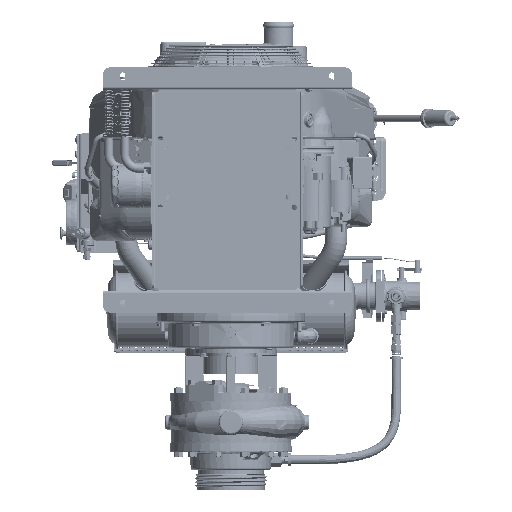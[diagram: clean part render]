
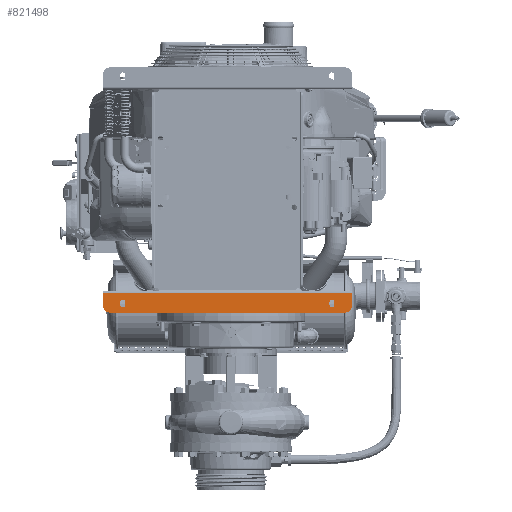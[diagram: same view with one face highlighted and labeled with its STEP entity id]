
A CAD part, front view. The second image highlights one B-rep face of the part: STEP entity #821498.
In plain terms, the highlighted planar face has unit normal (0, -1, 0).
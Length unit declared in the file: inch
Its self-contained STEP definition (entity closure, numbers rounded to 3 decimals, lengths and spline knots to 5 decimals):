
#1076 = CARTESIAN_POINT ( 'NONE',  ( 6.72871, -7.62598, -2.06394 ) ) ;
#19610 = VERTEX_POINT ( 'NONE', #131475 ) ;
#20877 = CARTESIAN_POINT ( 'NONE',  ( -7.36929, -7.62598, -1.69194 ) ) ;
#25032 = DIRECTION ( 'NONE',  ( 0., -1., 0. ) ) ;
#26072 = CARTESIAN_POINT ( 'NONE',  ( 8.26571, -7.62598, -2.08894 ) ) ;
#43702 = EDGE_CURVE ( 'NONE', #572544, #765083, #330552, .T. ) ;
#47526 = AXIS2_PLACEMENT_3D ( 'NONE', #453387, #119486, #536606 ) ;
#50116 = CARTESIAN_POINT ( 'NONE',  ( -0.23429, -7.62598, 5.78606 ) ) ;
#53474 = ORIENTED_EDGE ( 'NONE', *, *, #701477, .T. ) ;
#67813 = CARTESIAN_POINT ( 'NONE',  ( 6.72871, -7.62598, -1.86394 ) ) ;
#76751 = ORIENTED_EDGE ( 'NONE', *, *, #43702, .T. ) ;
#94535 = CARTESIAN_POINT ( 'NONE',  ( 7.76571, -7.62598, -2.08894 ) ) ;
#113439 = VERTEX_POINT ( 'NONE', #20877 ) ;
#114998 = FACE_BOUND ( 'NONE', #626098, .T. ) ;
#116576 = EDGE_CURVE ( 'NONE', #414872, #766826, #346053, .T. ) ;
#117647 = CARTESIAN_POINT ( 'NONE',  ( 6.90071, -7.62598, -1.86394 ) ) ;
#119486 = DIRECTION ( 'NONE',  ( 0., 1., 0. ) ) ;
#121654 = EDGE_CURVE ( 'NONE', #19610, #414872, #314132, .T. ) ;
#131475 = CARTESIAN_POINT ( 'NONE',  ( 7.07271, -7.62598, -2.06394 ) ) ;
#137098 = DIRECTION ( 'NONE',  ( 0., 0., 1. ) ) ;
#160338 = EDGE_CURVE ( 'NONE', #696127, #572544, #914424, .T. ) ;
#169300 = DIRECTION ( 'NONE',  ( 0., 0., 1. ) ) ;
#176683 = VECTOR ( 'NONE', #707128, 39.37008 ) ;
#179449 = DIRECTION ( 'NONE',  ( 0., -1., 0. ) ) ;
#180197 = EDGE_CURVE ( 'NONE', #113439, #356157, #614150, .T. ) ;
#186203 = EDGE_CURVE ( 'NONE', #307806, #780944, #276242, .T. ) ;
#196427 = AXIS2_PLACEMENT_3D ( 'NONE', #702433, #563440, #493934 ) ;
#204569 = EDGE_LOOP ( 'NONE', ( #76751, #370046, #871016, #744568, #351450, #360032 ) ) ;
#207585 = VERTEX_POINT ( 'NONE', #477318 ) ;
#215365 = CIRCLE ( 'NONE', #318553, 0.172 ) ;
#221771 = CARTESIAN_POINT ( 'NONE',  ( -8.73429, -7.62598, 5.78606 ) ) ;
#225100 = ORIENTED_EDGE ( 'NONE', *, *, #232159, .T. ) ;
#232159 = EDGE_CURVE ( 'NONE', #207585, #446292, #603382, .T. ) ;
#233590 = CARTESIAN_POINT ( 'NONE',  ( -7.36929, -7.62598, -1.86394 ) ) ;
#234454 = CIRCLE ( 'NONE', #471209, 0.5 ) ;
#243256 = EDGE_CURVE ( 'NONE', #780944, #19610, #421640, .T. ) ;
#245384 = DIRECTION ( 'NONE',  ( 0., 1., 0. ) ) ;
#251393 = DIRECTION ( 'NONE',  ( 0., 0., 1. ) ) ;
#260492 = VECTOR ( 'NONE', #169300, 39.37008 ) ;
#260943 = DIRECTION ( 'NONE',  ( 1., 0., 0. ) ) ;
#264413 = EDGE_CURVE ( 'NONE', #765083, #853894, #234454, .T. ) ;
#266108 = EDGE_LOOP ( 'NONE', ( #349366, #843512, #817209, #834677, #577015 ) ) ;
#276242 = CIRCLE ( 'NONE', #557262, 0.172 ) ;
#280085 = CARTESIAN_POINT ( 'NONE',  ( 6.72871, -7.62598, -1.86394 ) ) ;
#306224 = DIRECTION ( 'NONE',  ( 0., 0., -1. ) ) ;
#307806 = VERTEX_POINT ( 'NONE', #732158 ) ;
#314132 = CIRCLE ( 'NONE', #47526, 0.172 ) ;
#318553 = AXIS2_PLACEMENT_3D ( 'NONE', #233590, #516125, #872801 ) ;
#330552 = LINE ( 'NONE', #895700, #875661 ) ;
#340540 = EDGE_CURVE ( 'NONE', #766826, #307806, #577754, .T. ) ;
#346053 = LINE ( 'NONE', #67813, #176683 ) ;
#349366 = ORIENTED_EDGE ( 'NONE', *, *, #116576, .T. ) ;
#351450 = ORIENTED_EDGE ( 'NONE', *, *, #609496, .T. ) ;
#356157 = VERTEX_POINT ( 'NONE', #497938 ) ;
#360032 = ORIENTED_EDGE ( 'NONE', *, *, #160338, .T. ) ;
#370046 = ORIENTED_EDGE ( 'NONE', *, *, #264413, .T. ) ;
#378947 = CARTESIAN_POINT ( 'NONE',  ( -8.23429, -7.62598, -2.58894 ) ) ;
#385981 = VERTEX_POINT ( 'NONE', #452778 ) ;
#399962 = CARTESIAN_POINT ( 'NONE',  ( -7.54129, -7.62598, -1.86394 ) ) ;
#414872 = VERTEX_POINT ( 'NONE', #1076 ) ;
#417085 = VERTEX_POINT ( 'NONE', #541316 ) ;
#418595 = VECTOR ( 'NONE', #828090, 39.37008 ) ;
#421640 = LINE ( 'NONE', #504823, #479897 ) ;
#433705 = VECTOR ( 'NONE', #251393, 39.37008 ) ;
#441877 = CARTESIAN_POINT ( 'NONE',  ( -8.73429, -7.62598, -2.08894 ) ) ;
#446292 = VERTEX_POINT ( 'NONE', #399962 ) ;
#452210 = EDGE_CURVE ( 'NONE', #446292, #113439, #215365, .T. ) ;
#452778 = CARTESIAN_POINT ( 'NONE',  ( 8.26571, -7.62598, -1.25294 ) ) ;
#453387 = CARTESIAN_POINT ( 'NONE',  ( 6.90071, -7.62598, -2.06394 ) ) ;
#471209 = AXIS2_PLACEMENT_3D ( 'NONE', #94535, #25032, #520835 ) ;
#475177 = CARTESIAN_POINT ( 'NONE',  ( 8.26571, -7.62598, -1.25294 ) ) ;
#477318 = CARTESIAN_POINT ( 'NONE',  ( -7.54129, -7.62598, -2.06394 ) ) ;
#479897 = VECTOR ( 'NONE', #917402, 39.37008 ) ;
#493934 = DIRECTION ( 'NONE',  ( 0., 0., -1. ) ) ;
#497938 = CARTESIAN_POINT ( 'NONE',  ( -7.19729, -7.62598, -1.86394 ) ) ;
#499721 = LINE ( 'NONE', #221771, #663005 ) ;
#504823 = CARTESIAN_POINT ( 'NONE',  ( 7.07271, -7.62598, -1.86394 ) ) ;
#516125 = DIRECTION ( 'NONE',  ( 0., 1., 0. ) ) ;
#520835 = DIRECTION ( 'NONE',  ( 0., 0., 1. ) ) ;
#521451 = LINE ( 'NONE', #804080, #260492 ) ;
#523849 = CARTESIAN_POINT ( 'NONE',  ( -7.36929, -7.62598, -1.86394 ) ) ;
#534749 = DIRECTION ( 'NONE',  ( 0., 1., 0. ) ) ;
#536606 = DIRECTION ( 'NONE',  ( 0., 0., 1. ) ) ;
#536934 = CIRCLE ( 'NONE', #196427, 0.172 ) ;
#541316 = CARTESIAN_POINT ( 'NONE',  ( -7.19729, -7.62598, -2.06394 ) ) ;
#557262 = AXIS2_PLACEMENT_3D ( 'NONE', #884687, #245384, #137098 ) ;
#563440 = DIRECTION ( 'NONE',  ( 0., 1., 0. ) ) ;
#572544 = VERTEX_POINT ( 'NONE', #378947 ) ;
#577015 = ORIENTED_EDGE ( 'NONE', *, *, #121654, .T. ) ;
#577754 = CIRCLE ( 'NONE', #858946, 0.172 ) ;
#603382 = LINE ( 'NONE', #886088, #433705 ) ;
#609496 = EDGE_CURVE ( 'NONE', #737484, #696127, #499721, .T. ) ;
#614150 = CIRCLE ( 'NONE', #732467, 0.172 ) ;
#626098 = EDGE_LOOP ( 'NONE', ( #225100, #854092, #877040, #690285, #53474 ) ) ;
#635521 = CARTESIAN_POINT ( 'NONE',  ( -8.73429, -7.62598, -1.25294 ) ) ;
#638414 = AXIS2_PLACEMENT_3D ( 'NONE', #50116, #819378, #814785 ) ;
#663005 = VECTOR ( 'NONE', #782350, 39.37008 ) ;
#664785 = CARTESIAN_POINT ( 'NONE',  ( 7.76571, -7.62598, -2.58894 ) ) ;
#680293 = FACE_BOUND ( 'NONE', #266108, .T. ) ;
#684300 = CARTESIAN_POINT ( 'NONE',  ( -8.23429, -7.62598, -2.08894 ) ) ;
#684886 = PLANE ( 'NONE',  #638414 ) ;
#690285 = ORIENTED_EDGE ( 'NONE', *, *, #702356, .T. ) ;
#696127 = VERTEX_POINT ( 'NONE', #441877 ) ;
#701477 = EDGE_CURVE ( 'NONE', #417085, #207585, #536934, .T. ) ;
#702356 = EDGE_CURVE ( 'NONE', #356157, #417085, #814328, .T. ) ;
#702433 = CARTESIAN_POINT ( 'NONE',  ( -7.36929, -7.62598, -2.06394 ) ) ;
#704880 = CARTESIAN_POINT ( 'NONE',  ( 7.07271, -7.62598, -1.86394 ) ) ;
#707128 = DIRECTION ( 'NONE',  ( 0., 0., 1. ) ) ;
#707322 = AXIS2_PLACEMENT_3D ( 'NONE', #684300, #179449, #892923 ) ;
#732158 = CARTESIAN_POINT ( 'NONE',  ( 6.90071, -7.62598, -1.69194 ) ) ;
#732467 = AXIS2_PLACEMENT_3D ( 'NONE', #523849, #806455, #306224 ) ;
#737484 = VERTEX_POINT ( 'NONE', #635521 ) ;
#743290 = DIRECTION ( 'NONE',  ( 0., 0., 1. ) ) ;
#744568 = ORIENTED_EDGE ( 'NONE', *, *, #794144, .F. ) ;
#765083 = VERTEX_POINT ( 'NONE', #664785 ) ;
#766826 = VERTEX_POINT ( 'NONE', #280085 ) ;
#776040 = DIRECTION ( 'NONE',  ( 1., 0., 0. ) ) ;
#780944 = VERTEX_POINT ( 'NONE', #704880 ) ;
#782350 = DIRECTION ( 'NONE',  ( 0., 0., -1. ) ) ;
#794144 = EDGE_CURVE ( 'NONE', #737484, #385981, #901423, .T. ) ;
#804080 = CARTESIAN_POINT ( 'NONE',  ( 8.26571, -7.62598, 5.78606 ) ) ;
#806455 = DIRECTION ( 'NONE',  ( 0., 1., 0. ) ) ;
#808618 = VECTOR ( 'NONE', #776040, 39.37008 ) ;
#809743 = CARTESIAN_POINT ( 'NONE',  ( -7.19729, -7.62598, -1.86394 ) ) ;
#814328 = LINE ( 'NONE', #809743, #418595 ) ;
#814785 = DIRECTION ( 'NONE',  ( 0., 0., 1. ) ) ;
#817209 = ORIENTED_EDGE ( 'NONE', *, *, #186203, .T. ) ;
#819378 = DIRECTION ( 'NONE',  ( 0., 1., 0. ) ) ;
#821498 = ADVANCED_FACE ( 'NONE', ( #114998, #680293, #888872 ), #684886, .F. ) ;
#828090 = DIRECTION ( 'NONE',  ( 0., 0., -1. ) ) ;
#834677 = ORIENTED_EDGE ( 'NONE', *, *, #243256, .T. ) ;
#843512 = ORIENTED_EDGE ( 'NONE', *, *, #340540, .T. ) ;
#845429 = EDGE_CURVE ( 'NONE', #853894, #385981, #521451, .T. ) ;
#853894 = VERTEX_POINT ( 'NONE', #26072 ) ;
#854092 = ORIENTED_EDGE ( 'NONE', *, *, #452210, .T. ) ;
#858946 = AXIS2_PLACEMENT_3D ( 'NONE', #117647, #534749, #743290 ) ;
#871016 = ORIENTED_EDGE ( 'NONE', *, *, #845429, .T. ) ;
#872801 = DIRECTION ( 'NONE',  ( 0., 0., -1. ) ) ;
#875661 = VECTOR ( 'NONE', #260943, 39.37008 ) ;
#877040 = ORIENTED_EDGE ( 'NONE', *, *, #180197, .T. ) ;
#884687 = CARTESIAN_POINT ( 'NONE',  ( 6.90071, -7.62598, -1.86394 ) ) ;
#886088 = CARTESIAN_POINT ( 'NONE',  ( -7.54129, -7.62598, -1.86394 ) ) ;
#888872 = FACE_OUTER_BOUND ( 'NONE', #204569, .T. ) ;
#892923 = DIRECTION ( 'NONE',  ( 0., 0., 1. ) ) ;
#895700 = CARTESIAN_POINT ( 'NONE',  ( -0.23429, -7.62598, -2.58894 ) ) ;
#901423 = LINE ( 'NONE', #475177, #808618 ) ;
#914424 = CIRCLE ( 'NONE', #707322, 0.5 ) ;
#917402 = DIRECTION ( 'NONE',  ( 0., 0., -1. ) ) ;
